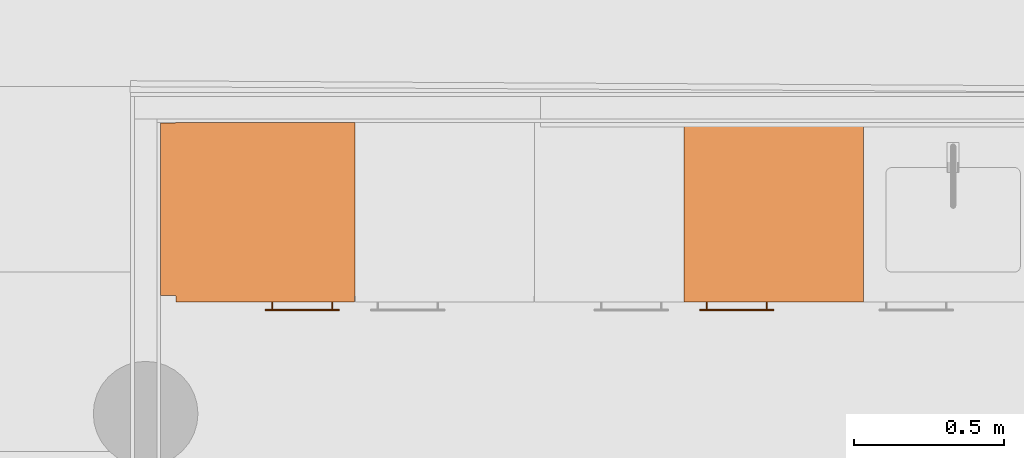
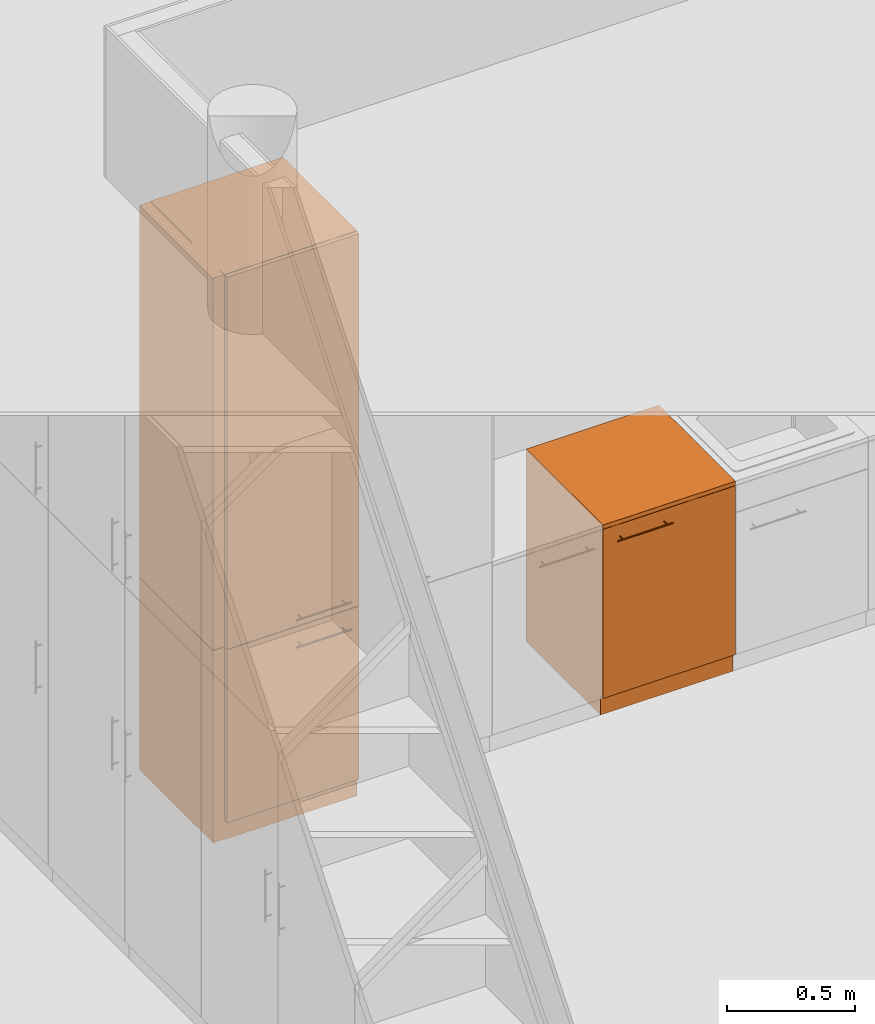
# One storey, part 121 of 167: 2 proxies.
"""IFC2X3 building model written with IfcOpenShell, lengths in millimetres."""

from ifc_helpers import new_model, entity, si_unit, converted_unit, derived_unit, money_unit, direction, frame, origin_with_axes, place, context, subcontext, project, spatial, open_shell, faceted_brep, surface_model, type_object, element, save


model = new_model("IFC2X3")

# Units and contexts
model_context = context("Model", 3, precision=0.01, world=origin_with_axes(), true_north=direction((0.0, 1.0)))
plan_context = context("Plan", 3, precision=0.01, world=origin_with_axes(), true_north=direction((0.0, 1.0)))
body_context = subcontext(model_context, "Body", "Model", "MODEL_VIEW")
ifc_project = project(units=[si_unit("LENGTHUNIT", "METRE", prefix="MILLI"), si_unit("AREAUNIT", "SQUARE_METRE"), si_unit("VOLUMEUNIT", "CUBIC_METRE"), converted_unit("PLANEANGLEUNIT", "DEGREE", entity("IfcPlaneAngleMeasure", 0.0174532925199), si_unit("PLANEANGLEUNIT", "RADIAN"), dimensions=[0, 0, 0, 0, 0, 0, 0]), si_unit("SOLIDANGLEUNIT", "STERADIAN"), money_unit("EUR"), converted_unit("TIMEUNIT", "Year", entity("IfcTimeMeasure", 31556926.0), si_unit("TIMEUNIT", "SECOND"), dimensions=[0, 0, 1, 0, 0, 0, 0]), si_unit("MASSUNIT", "GRAM", prefix="KILO"), si_unit("THERMODYNAMICTEMPERATUREUNIT", "DEGREE_CELSIUS"), si_unit("LUMINOUSINTENSITYUNIT", "LUMEN"), si_unit("ENERGYUNIT", "JOULE", prefix="MEGA"), derived_unit("THERMALCONDUCTANCEUNIT", [(si_unit("POWERUNIT", "WATT"), 1), (si_unit("LENGTHUNIT", "METRE"), -1), (si_unit("THERMODYNAMICTEMPERATUREUNIT", "KELVIN"), -1)]), derived_unit("SPECIFICHEATCAPACITYUNIT", [(si_unit("ENERGYUNIT", "JOULE"), 1), (si_unit("MASSUNIT", "GRAM", prefix="KILO"), -1), (si_unit("THERMODYNAMICTEMPERATUREUNIT", "KELVIN"), -1)]), derived_unit("MASSDENSITYUNIT", [(si_unit("MASSUNIT", "GRAM", prefix="KILO"), 1), (si_unit("VOLUMEUNIT", "CUBIC_METRE"), -1)])], contexts=[model_context, plan_context])

# Site, building, storey
site_placement = place(None, origin_with_axes())
site = spatial("IfcSite", under=ifc_project, at=site_placement, Name="Site", CompositionType="ELEMENT")
building_placement = place(site_placement, origin_with_axes())
building = spatial("IfcBuilding", under=site, at=building_placement, Name="Naam gebouw", CompositionType="ELEMENT")
storey_placement = place(building_placement, origin_with_axes())
storey = spatial("IfcBuildingStorey", under=building, at=storey_placement, Name="Begane grond", CompositionType="ELEMENT", Elevation=0.0)

# Proxies
building_element_proxy_type_1 = type_object("IfcBuildingElementProxyType", Name="Kast basis 1D 24", PredefinedType="NOTDEFINED")
proxy_1_placement = place(storey_placement, frame((16800.0, 7573.34783859, 0.0), z_axis=(0.0, 0.0, 1.0), x_axis=(1.0, 0.0, 0.0)))
element("IfcBuildingElementProxy", 1, at=proxy_1_placement, inside=storey, type_object=building_element_proxy_type_1, Name="__Object-x", context=body_context, shape_type="SurfaceModel", body=[
    faceted_brep([(0.0, 20.0, 0.0), (0.0, 20.0, 90.0), (-600.0, 20.0, 90.0), (-600.0, 20.0, 0.0), (0.0, 600.0, 0.0), (0.0, 600.0, 90.0), (-600.0, 600.0, 90.0), (-600.0, 600.0, 0.0)], [[[0, 1, 2, 3]], [[4, 5, 1, 0]], [[1, 5, 6, 2]], [[3, 2, 6, 7]], [[0, 3, 7, 4]], [[7, 6, 5, 4]]]),
    faceted_brep([(0.0, 20.0, 880.0), (0.0, 20.0, 900.0), (-20.0, 20.0, 900.0), (-20.0, 20.0, 880.0), (0.0, 600.0, 880.0), (0.0, 600.0, 900.0), (-20.0, 600.0, 900.0), (-580.0, 600.0, 900.0), (-600.0, 600.0, 900.0), (-600.0, 20.0, 900.0), (-580.0, 20.0, 900.0), (-580.0, 20.0, 880.0), (-600.0, 20.0, 880.0), (-600.0, 600.0, 880.0), (-580.0, 600.0, 880.0), (-20.0, 600.0, 880.0)], [[[0, 1, 2, 3]], [[4, 5, 1, 0]], [[1, 5, 6, 7, 8, 9, 10, 2]], [[3, 2, 10, 11]], [[0, 3, 11, 12, 13, 14, 15, 4]], [[15, 6, 5, 4]], [[14, 7, 6, 15]], [[13, 8, 7, 14]], [[12, 9, 8, 13]], [[11, 10, 9, 12]]]),
    faceted_brep([(0.0, 20.0, 90.0), (0.0, 20.0, 110.0), (-20.0, 20.0, 110.0), (-20.0, 20.0, 90.0), (0.0, 600.0, 90.0), (0.0, 600.0, 110.0), (-20.0, 600.0, 110.0), (-580.0, 600.0, 110.0), (-600.0, 600.0, 110.0), (-600.0, 20.0, 110.0), (-580.0, 20.0, 110.0), (-580.0, 20.0, 90.0), (-600.0, 20.0, 90.0), (-600.0, 600.0, 90.0), (-580.0, 600.0, 90.0), (-20.0, 600.0, 90.0)], [[[0, 1, 2, 3]], [[4, 5, 1, 0]], [[1, 5, 6, 7, 8, 9, 10, 2]], [[3, 2, 10, 11]], [[0, 3, 11, 12, 13, 14, 15, 4]], [[15, 6, 5, 4]], [[14, 7, 6, 15]], [[13, 8, 7, 14]], [[12, 9, 8, 13]], [[11, 10, 9, 12]]]),
    faceted_brep([(0.0, 20.0, 110.0), (0.0, 20.0, 880.0), (-20.0, 20.0, 880.0), (-20.0, 20.0, 110.0), (0.0, 600.0, 110.0), (0.0, 600.0, 880.0), (-600.0, 600.0, 880.0), (-600.0, 20.0, 880.0), (-580.0, 20.0, 880.0), (-580.0, 580.0, 880.0), (-20.0, 580.0, 880.0), (-20.0, 580.0, 110.0), (-580.0, 580.0, 110.0), (-580.0, 20.0, 110.0), (-600.0, 20.0, 110.0), (-600.0, 600.0, 110.0)], [[[0, 1, 2, 3]], [[4, 5, 1, 0]], [[1, 5, 6, 7, 8, 9, 10, 2]], [[3, 2, 10, 11]], [[0, 3, 11, 12, 13, 14, 15, 4]], [[15, 6, 5, 4]], [[14, 7, 6, 15]], [[13, 8, 7, 14]], [[12, 9, 8, 13]], [[11, 10, 9, 12]]]),
    faceted_brep([(-580.0, 20.0, 475.0), (-580.0, 20.0, 495.0), (-580.0, 580.0, 495.0), (-580.0, 580.0, 475.0), (-20.0, 20.0, 475.0), (-20.0, 20.0, 495.0), (-20.0, 580.0, 495.0), (-20.0, 580.0, 475.0)], [[[0, 1, 2, 3]], [[4, 5, 1, 0]], [[1, 5, 6, 2]], [[3, 2, 6, 7]], [[0, 3, 7, 4]], [[7, 6, 5, 4]]]),
    faceted_brep([(0.0, 0.0, 900.0), (0.0, 0.0, 920.0), (-600.0, 0.0, 920.0), (-600.0, 0.0, 900.0), (0.0, 600.0, 900.0), (0.0, 600.0, 920.0), (-600.0, 600.0, 920.0), (-600.0, 600.0, 900.0)], [[[0, 1, 2, 3]], [[4, 5, 1, 0]], [[1, 5, 6, 2]], [[3, 2, 6, 7]], [[0, 3, 7, 4]], [[7, 6, 5, 4]]]),
    faceted_brep([(-1.5, 20.0, 91.5), (-1.5, 0.0, 91.5), (-598.5, 0.0, 91.5), (-598.5, 20.0, 91.5), (-1.5, 20.0, 898.5), (-1.5, 0.0, 898.5), (-598.5, 0.0, 898.5), (-598.5, 20.0, 898.5)], [[[0, 1, 2, 3]], [[4, 5, 1, 0]], [[1, 5, 6, 2]], [[3, 2, 6, 7]], [[0, 3, 7, 4]], [[7, 6, 5, 4]]]),
    faceted_brep([(-298.5, -28.1480502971, 838.728361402), (-298.5, -27.0, 838.5), (-298.5, -25.8519497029, 838.728361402), (-298.5, -24.8786796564, 839.378679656), (-298.5, -24.2283614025, 840.351949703), (-298.5, -24.0, 841.5), (-298.5, -24.2283614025, 842.648050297), (-298.5, -24.8786796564, 843.621320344), (-298.5, -25.8519497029, 844.271638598), (-298.5, -27.0, 844.5), (-298.5, -28.1480502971, 844.271638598), (-298.5, -29.1213203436, 843.621320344), (-298.5, -29.7716385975, 842.648050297), (-298.5, -30.0, 841.5), (-298.5, -29.7716385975, 840.351949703), (-298.5, -29.1213203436, 839.378679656), (-548.5, -28.1480502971, 838.728361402), (-548.5, -27.0, 838.5), (-548.5, -25.8519497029, 838.728361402), (-548.5, -24.8786796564, 839.378679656), (-548.5, -24.2283614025, 840.351949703), (-548.5, -24.0, 841.5), (-548.5, -24.2283614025, 842.648050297), (-548.5, -24.8786796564, 843.621320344), (-548.5, -25.8519497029, 844.271638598), (-548.5, -27.0, 844.5), (-548.5, -28.1480502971, 844.271638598), (-548.5, -29.1213203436, 843.621320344), (-548.5, -29.7716385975, 842.648050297), (-548.5, -30.0, 841.5), (-548.5, -29.7716385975, 840.351949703), (-548.5, -29.1213203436, 839.378679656)], [[[0, 1, 2, 3, 4, 5, 6, 7, 8, 9, 10, 11, 12, 13, 14, 15]], [[0, 16, 17, 1]], [[1, 17, 18, 2]], [[2, 18, 19, 3]], [[3, 19, 20, 4]], [[4, 20, 21, 5]], [[5, 21, 22, 6]], [[6, 22, 23, 7]], [[7, 23, 24, 8]], [[8, 24, 25, 9]], [[9, 25, 26, 10]], [[10, 26, 27, 11]], [[11, 27, 28, 12]], [[12, 28, 29, 13]], [[13, 29, 30, 14]], [[14, 30, 31, 15]], [[15, 31, 16, 0]], [[16, 31, 30, 29, 28, 27, 26, 25, 24, 23, 22, 21, 20, 19, 18, 17]]]),
    surface_model("IfcShellBasedSurfaceModel", [(-321.190301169, -24.156637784, 840.543291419), (-321.190301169, 0.0, 840.543291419), (-321.0, 0.0, 841.5), (-321.0, -24.0, 841.5), (-321.732233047, -24.5761600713, 839.732233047), (-321.732233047, 0.0, 839.732233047), (-322.543291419, 0.0, 839.190301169), (-323.5, 0.0, 839.0), (-324.456708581, 0.0, 839.190301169), (-325.267766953, 0.0, 839.732233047), (-325.809698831, 0.0, 840.543291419), (-326.0, 0.0, 841.5), (-325.809698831, 0.0, 842.456708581), (-325.267766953, 0.0, 843.267766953), (-324.456708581, 0.0, 843.809698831), (-323.5, 0.0, 844.0), (-322.543291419, 0.0, 843.809698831), (-321.732233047, 0.0, 843.267766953), (-321.190301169, 0.0, 842.456708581), (-321.190301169, -24.156637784, 842.456708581), (-322.543291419, -25.0855049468, 839.190301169), (-323.5, -25.3416876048, 839.0), (-324.456708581, -25.0855049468, 839.190301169), (-325.267766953, -24.5761600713, 839.732233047), (-325.809698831, -24.156637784, 840.543291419), (-326.0, -24.0, 841.5), (-325.809698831, -24.156637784, 842.456708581), (-325.267766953, -24.5761600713, 843.267766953), (-324.456708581, -25.0855049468, 843.809698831), (-323.5, -25.3416876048, 844.0), (-322.543291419, -25.0855049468, 843.809698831), (-321.732233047, -24.5761600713, 843.267766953)], [open_shell([[[0, 1, 2, 3]], [[4, 5, 1, 0]], [[1, 5, 6, 7, 8, 9, 10, 11, 12, 13, 14, 15, 16, 17, 18, 2]], [[3, 2, 18, 19]], [[20, 6, 5, 4]], [[21, 7, 6, 20]], [[22, 8, 7, 21]], [[23, 9, 8, 22]], [[24, 10, 9, 23]], [[25, 11, 10, 24]], [[26, 12, 11, 25]], [[27, 13, 12, 26]], [[28, 14, 13, 27]], [[29, 15, 14, 28]], [[30, 16, 15, 29]], [[31, 17, 16, 30]], [[19, 18, 17, 31]]])]),
    surface_model("IfcShellBasedSurfaceModel", [(-521.190301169, -24.156637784, 840.543291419), (-521.190301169, 0.0, 840.543291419), (-521.0, 0.0, 841.5), (-521.0, -24.0, 841.5), (-521.732233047, -24.5761600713, 839.732233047), (-521.732233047, 0.0, 839.732233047), (-522.543291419, 0.0, 839.190301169), (-523.5, 0.0, 839.0), (-524.456708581, 0.0, 839.190301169), (-525.267766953, 0.0, 839.732233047), (-525.809698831, 0.0, 840.543291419), (-526.0, 0.0, 841.5), (-525.809698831, 0.0, 842.456708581), (-525.267766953, 0.0, 843.267766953), (-524.456708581, 0.0, 843.809698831), (-523.5, 0.0, 844.0), (-522.543291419, 0.0, 843.809698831), (-521.732233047, 0.0, 843.267766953), (-521.190301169, 0.0, 842.456708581), (-521.190301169, -24.156637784, 842.456708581), (-522.543291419, -25.0855049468, 839.190301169), (-523.5, -25.3416876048, 839.0), (-524.456708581, -25.0855049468, 839.190301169), (-525.267766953, -24.5761600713, 839.732233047), (-525.809698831, -24.156637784, 840.543291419), (-526.0, -24.0, 841.5), (-525.809698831, -24.156637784, 842.456708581), (-525.267766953, -24.5761600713, 843.267766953), (-524.456708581, -25.0855049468, 843.809698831), (-523.5, -25.3416876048, 844.0), (-522.543291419, -25.0855049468, 843.809698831), (-521.732233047, -24.5761600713, 843.267766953)], [open_shell([[[0, 1, 2, 3]], [[4, 5, 1, 0]], [[1, 5, 6, 7, 8, 9, 10, 11, 12, 13, 14, 15, 16, 17, 18, 2]], [[3, 2, 18, 19]], [[20, 6, 5, 4]], [[21, 7, 6, 20]], [[22, 8, 7, 21]], [[23, 9, 8, 22]], [[24, 10, 9, 23]], [[25, 11, 10, 24]], [[26, 12, 11, 25]], [[27, 13, 12, 26]], [[28, 14, 13, 27]], [[29, 15, 14, 28]], [[30, 16, 15, 29]], [[31, 17, 16, 30]], [[19, 18, 17, 31]]])]),
])
building_element_proxy_type_2 = type_object("IfcBuildingElementProxyType", Name="Kast hoog 1D 24", PredefinedType="NOTDEFINED")
proxy_2_placement = place(storey_placement, frame((14450.0, 7573.34783859, 0.0), z_axis=(0.0, 0.0, 1.0), x_axis=(1.0, 0.0, 0.0)))
element("IfcBuildingElementProxy", 2, at=proxy_2_placement, inside=storey, type_object=building_element_proxy_type_2, Name="__Object-x", context=body_context, shape_type="SurfaceModel", body=[
    faceted_brep([(70.0, 20.0, 910.0), (630.0, 20.0, 910.0), (630.0, 20.0, 930.0), (70.0, 20.0, 930.0), (70.0, 580.0, 910.0), (630.0, 580.0, 910.0), (630.0, 580.0, 930.0), (70.0, 580.0, 930.0)], [[[0, 1, 2, 3]], [[0, 4, 5, 1]], [[1, 5, 6, 2]], [[3, 2, 6, 7]], [[4, 0, 3, 7]], [[5, 4, 7, 6]]]),
    faceted_brep([(50.0, 20.0, 0.0), (650.0, 20.0, 0.0), (650.0, 20.0, 90.0), (50.0, 20.0, 90.0), (50.0, 600.0, 0.0), (650.0, 600.0, 0.0), (650.0, 600.0, 90.0), (50.0, 600.0, 90.0)], [[[0, 1, 2, 3]], [[0, 4, 5, 1]], [[1, 5, 6, 2]], [[3, 2, 6, 7]], [[4, 0, 3, 7]], [[5, 4, 7, 6]]]),
    faceted_brep([(50.0, 20.0, 2680.0), (70.0, 20.0, 2680.0), (70.0, 20.0, 2700.0), (50.0, 20.0, 2700.0), (50.0, 600.0, 2680.0), (70.0, 600.0, 2680.0), (630.0, 600.0, 2680.0), (650.0, 600.0, 2680.0), (650.0, 20.0, 2680.0), (630.0, 20.0, 2680.0), (630.0, 20.0, 2700.0), (650.0, 20.0, 2700.0), (650.0, 600.0, 2700.0), (630.0, 600.0, 2700.0), (70.0, 600.0, 2700.0), (50.0, 600.0, 2700.0)], [[[0, 1, 2, 3]], [[0, 4, 5, 6, 7, 8, 9, 1]], [[1, 9, 10, 2]], [[3, 2, 10, 11, 12, 13, 14, 15]], [[4, 0, 3, 15]], [[5, 4, 15, 14]], [[6, 5, 14, 13]], [[7, 6, 13, 12]], [[8, 7, 12, 11]], [[9, 8, 11, 10]]]),
    faceted_brep([(50.0, 20.0, 90.0), (70.0, 20.0, 90.0), (70.0, 20.0, 110.0), (50.0, 20.0, 110.0), (50.0, 600.0, 90.0), (70.0, 600.0, 90.0), (630.0, 600.0, 90.0), (650.0, 600.0, 90.0), (650.0, 20.0, 90.0), (630.0, 20.0, 90.0), (630.0, 20.0, 110.0), (650.0, 20.0, 110.0), (650.0, 600.0, 110.0), (630.0, 600.0, 110.0), (70.0, 600.0, 110.0), (50.0, 600.0, 110.0)], [[[0, 1, 2, 3]], [[0, 4, 5, 6, 7, 8, 9, 1]], [[1, 9, 10, 2]], [[3, 2, 10, 11, 12, 13, 14, 15]], [[4, 0, 3, 15]], [[5, 4, 15, 14]], [[6, 5, 14, 13]], [[7, 6, 13, 12]], [[8, 7, 12, 11]], [[9, 8, 11, 10]]]),
    faceted_brep([(50.0, 20.0, 110.0), (70.0, 20.0, 110.0), (70.0, 20.0, 2680.0), (50.0, 20.0, 2680.0), (50.0, 600.0, 110.0), (650.0, 600.0, 110.0), (650.0, 20.0, 110.0), (630.0, 20.0, 110.0), (630.0, 580.0, 110.0), (70.0, 580.0, 110.0), (70.0, 580.0, 2680.0), (630.0, 580.0, 2680.0), (630.0, 20.0, 2680.0), (650.0, 20.0, 2680.0), (650.0, 600.0, 2680.0), (50.0, 600.0, 2680.0)], [[[0, 1, 2, 3]], [[0, 4, 5, 6, 7, 8, 9, 1]], [[1, 9, 10, 2]], [[3, 2, 10, 11, 12, 13, 14, 15]], [[4, 0, 3, 15]], [[5, 4, 15, 14]], [[6, 5, 14, 13]], [[7, 6, 13, 12]], [[8, 7, 12, 11]], [[9, 8, 11, 10]]]),
    faceted_brep([(630.0, 20.0, 353.333333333), (630.0, 580.0, 353.333333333), (630.0, 580.0, 373.333333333), (630.0, 20.0, 373.333333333), (70.0, 20.0, 353.333333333), (70.0, 580.0, 353.333333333), (70.0, 580.0, 373.333333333), (70.0, 20.0, 373.333333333)], [[[0, 1, 2, 3]], [[0, 4, 5, 1]], [[1, 5, 6, 2]], [[3, 2, 6, 7]], [[4, 0, 3, 7]], [[5, 4, 7, 6]]]),
    faceted_brep([(630.0, 20.0, 636.666666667), (630.0, 580.0, 636.666666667), (630.0, 580.0, 656.666666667), (630.0, 20.0, 656.666666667), (70.0, 20.0, 636.666666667), (70.0, 580.0, 636.666666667), (70.0, 580.0, 656.666666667), (70.0, 20.0, 656.666666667)], [[[0, 1, 2, 3]], [[0, 4, 5, 1]], [[1, 5, 6, 2]], [[3, 2, 6, 7]], [[4, 0, 3, 7]], [[5, 4, 7, 6]]]),
    faceted_brep([(51.5, 20.0, 91.5), (648.5, 20.0, 91.5), (648.5, 0.0, 91.5), (51.5, 0.0, 91.5), (51.5, 20.0, 918.5), (648.5, 20.0, 918.5), (648.5, 0.0, 918.5), (51.5, 0.0, 918.5)], [[[0, 1, 2, 3]], [[0, 4, 5, 1]], [[1, 5, 6, 2]], [[3, 2, 6, 7]], [[4, 0, 3, 7]], [[5, 4, 7, 6]]]),
    faceted_brep([(348.5, -28.1480502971, 838.728361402), (348.5, -29.1213203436, 839.378679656), (348.5, -29.7716385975, 840.351949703), (348.5, -30.0, 841.5), (348.5, -29.7716385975, 842.648050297), (348.5, -29.1213203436, 843.621320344), (348.5, -28.1480502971, 844.271638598), (348.5, -27.0, 844.5), (348.5, -25.8519497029, 844.271638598), (348.5, -24.8786796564, 843.621320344), (348.5, -24.2283614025, 842.648050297), (348.5, -24.0, 841.5), (348.5, -24.2283614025, 840.351949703), (348.5, -24.8786796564, 839.378679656), (348.5, -25.8519497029, 838.728361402), (348.5, -27.0, 838.5), (598.5, -28.1480502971, 838.728361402), (598.5, -29.1213203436, 839.378679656), (598.5, -29.7716385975, 840.351949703), (598.5, -30.0, 841.5), (598.5, -29.7716385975, 842.648050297), (598.5, -29.1213203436, 843.621320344), (598.5, -28.1480502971, 844.271638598), (598.5, -27.0, 844.5), (598.5, -25.8519497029, 844.271638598), (598.5, -24.8786796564, 843.621320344), (598.5, -24.2283614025, 842.648050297), (598.5, -24.0, 841.5), (598.5, -24.2283614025, 840.351949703), (598.5, -24.8786796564, 839.378679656), (598.5, -25.8519497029, 838.728361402), (598.5, -27.0, 838.5)], [[[0, 1, 2, 3, 4, 5, 6, 7, 8, 9, 10, 11, 12, 13, 14, 15]], [[1, 0, 16, 17]], [[2, 1, 17, 18]], [[3, 2, 18, 19]], [[4, 3, 19, 20]], [[5, 4, 20, 21]], [[6, 5, 21, 22]], [[7, 6, 22, 23]], [[8, 7, 23, 24]], [[9, 8, 24, 25]], [[10, 9, 25, 26]], [[11, 10, 26, 27]], [[12, 11, 27, 28]], [[13, 12, 28, 29]], [[14, 13, 29, 30]], [[15, 14, 30, 31]], [[0, 15, 31, 16]], [[16, 31, 30, 29, 28, 27, 26, 25, 24, 23, 22, 21, 20, 19, 18, 17]]]),
    surface_model("IfcShellBasedSurfaceModel", [(371.190301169, -24.156637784, 840.543291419), (371.0, -24.0, 841.5), (371.0, 0.0, 841.5), (371.190301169, 0.0, 840.543291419), (371.190301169, -24.156637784, 842.456708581), (371.190301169, 0.0, 842.456708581), (371.732233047, 0.0, 843.267766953), (372.543291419, 0.0, 843.809698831), (373.5, 0.0, 844.0), (374.456708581, 0.0, 843.809698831), (375.267766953, 0.0, 843.267766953), (375.809698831, 0.0, 842.456708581), (376.0, 0.0, 841.5), (375.809698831, 0.0, 840.543291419), (375.267766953, 0.0, 839.732233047), (374.456708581, 0.0, 839.190301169), (373.5, 0.0, 839.0), (372.543291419, 0.0, 839.190301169), (371.732233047, 0.0, 839.732233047), (371.732233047, -24.5761600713, 839.732233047), (371.732233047, -24.5761600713, 843.267766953), (372.543291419, -25.0855049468, 843.809698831), (373.5, -25.3416876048, 844.0), (374.456708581, -25.0855049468, 843.809698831), (375.267766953, -24.5761600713, 843.267766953), (375.809698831, -24.156637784, 842.456708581), (376.0, -24.0, 841.5), (375.809698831, -24.156637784, 840.543291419), (375.267766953, -24.5761600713, 839.732233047), (374.456708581, -25.0855049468, 839.190301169), (373.5, -25.3416876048, 839.0), (372.543291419, -25.0855049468, 839.190301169)], [open_shell([[[0, 1, 2, 3]], [[1, 4, 5, 2]], [[3, 2, 5, 6, 7, 8, 9, 10, 11, 12, 13, 14, 15, 16, 17, 18]], [[19, 0, 3, 18]], [[4, 20, 6, 5]], [[20, 21, 7, 6]], [[21, 22, 8, 7]], [[22, 23, 9, 8]], [[23, 24, 10, 9]], [[24, 25, 11, 10]], [[25, 26, 12, 11]], [[26, 27, 13, 12]], [[27, 28, 14, 13]], [[28, 29, 15, 14]], [[29, 30, 16, 15]], [[30, 31, 17, 16]], [[31, 19, 18, 17]]])]),
    surface_model("IfcShellBasedSurfaceModel", [(571.190301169, -24.156637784, 840.543291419), (571.0, -24.0, 841.5), (571.0, 0.0, 841.5), (571.190301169, 0.0, 840.543291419), (571.190301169, -24.156637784, 842.456708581), (571.190301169, 0.0, 842.456708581), (571.732233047, 0.0, 843.267766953), (572.543291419, 0.0, 843.809698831), (573.5, 0.0, 844.0), (574.456708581, 0.0, 843.809698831), (575.267766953, 0.0, 843.267766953), (575.809698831, 0.0, 842.456708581), (576.0, 0.0, 841.5), (575.809698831, 0.0, 840.543291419), (575.267766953, 0.0, 839.732233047), (574.456708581, 0.0, 839.190301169), (573.5, 0.0, 839.0), (572.543291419, 0.0, 839.190301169), (571.732233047, 0.0, 839.732233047), (571.732233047, -24.5761600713, 839.732233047), (571.732233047, -24.5761600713, 843.267766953), (572.543291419, -25.0855049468, 843.809698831), (573.5, -25.3416876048, 844.0), (574.456708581, -25.0855049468, 843.809698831), (575.267766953, -24.5761600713, 843.267766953), (575.809698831, -24.156637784, 842.456708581), (576.0, -24.0, 841.5), (575.809698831, -24.156637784, 840.543291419), (575.267766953, -24.5761600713, 839.732233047), (574.456708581, -25.0855049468, 839.190301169), (573.5, -25.3416876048, 839.0), (572.543291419, -25.0855049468, 839.190301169)], [open_shell([[[0, 1, 2, 3]], [[1, 4, 5, 2]], [[3, 2, 5, 6, 7, 8, 9, 10, 11, 12, 13, 14, 15, 16, 17, 18]], [[19, 0, 3, 18]], [[4, 20, 6, 5]], [[20, 21, 7, 6]], [[21, 22, 8, 7]], [[22, 23, 9, 8]], [[23, 24, 10, 9]], [[24, 25, 11, 10]], [[25, 26, 12, 11]], [[26, 27, 13, 12]], [[27, 28, 14, 13]], [[28, 29, 15, 14]], [[29, 30, 16, 15]], [[30, 31, 17, 16]], [[31, 19, 18, 17]]])]),
    faceted_brep([(51.5, 20.0, 921.5), (648.5, 20.0, 921.5), (648.5, 0.0, 921.5), (51.5, 0.0, 921.5), (51.5, 20.0, 2698.5), (648.5, 20.0, 2698.5), (648.5, 0.0, 2698.5), (51.5, 0.0, 2698.5)], [[[0, 1, 2, 3]], [[0, 4, 5, 1]], [[1, 5, 6, 2]], [[3, 2, 6, 7]], [[4, 0, 3, 7]], [[5, 4, 7, 6]]]),
    faceted_brep([(348.5, -28.1480502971, 968.728361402), (348.5, -29.1213203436, 969.378679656), (348.5, -29.7716385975, 970.351949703), (348.5, -30.0, 971.5), (348.5, -29.7716385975, 972.648050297), (348.5, -29.1213203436, 973.621320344), (348.5, -28.1480502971, 974.271638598), (348.5, -27.0, 974.5), (348.5, -25.8519497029, 974.271638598), (348.5, -24.8786796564, 973.621320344), (348.5, -24.2283614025, 972.648050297), (348.5, -24.0, 971.5), (348.5, -24.2283614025, 970.351949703), (348.5, -24.8786796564, 969.378679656), (348.5, -25.8519497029, 968.728361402), (348.5, -27.0, 968.5), (598.5, -28.1480502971, 968.728361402), (598.5, -29.1213203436, 969.378679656), (598.5, -29.7716385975, 970.351949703), (598.5, -30.0, 971.5), (598.5, -29.7716385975, 972.648050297), (598.5, -29.1213203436, 973.621320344), (598.5, -28.1480502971, 974.271638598), (598.5, -27.0, 974.5), (598.5, -25.8519497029, 974.271638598), (598.5, -24.8786796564, 973.621320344), (598.5, -24.2283614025, 972.648050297), (598.5, -24.0, 971.5), (598.5, -24.2283614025, 970.351949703), (598.5, -24.8786796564, 969.378679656), (598.5, -25.8519497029, 968.728361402), (598.5, -27.0, 968.5)], [[[0, 1, 2, 3, 4, 5, 6, 7, 8, 9, 10, 11, 12, 13, 14, 15]], [[1, 0, 16, 17]], [[2, 1, 17, 18]], [[3, 2, 18, 19]], [[4, 3, 19, 20]], [[5, 4, 20, 21]], [[6, 5, 21, 22]], [[7, 6, 22, 23]], [[8, 7, 23, 24]], [[9, 8, 24, 25]], [[10, 9, 25, 26]], [[11, 10, 26, 27]], [[12, 11, 27, 28]], [[13, 12, 28, 29]], [[14, 13, 29, 30]], [[15, 14, 30, 31]], [[0, 15, 31, 16]], [[16, 31, 30, 29, 28, 27, 26, 25, 24, 23, 22, 21, 20, 19, 18, 17]]]),
    surface_model("IfcShellBasedSurfaceModel", [(371.190301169, -24.156637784, 970.543291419), (371.0, -24.0, 971.5), (371.0, 0.0, 971.5), (371.190301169, 0.0, 970.543291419), (371.190301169, -24.156637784, 972.456708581), (371.190301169, 0.0, 972.456708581), (371.732233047, 0.0, 973.267766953), (372.543291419, 0.0, 973.809698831), (373.5, 0.0, 974.0), (374.456708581, 0.0, 973.809698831), (375.267766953, 0.0, 973.267766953), (375.809698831, 0.0, 972.456708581), (376.0, 0.0, 971.5), (375.809698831, 0.0, 970.543291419), (375.267766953, 0.0, 969.732233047), (374.456708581, 0.0, 969.190301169), (373.5, 0.0, 969.0), (372.543291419, 0.0, 969.190301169), (371.732233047, 0.0, 969.732233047), (371.732233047, -24.5761600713, 969.732233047), (371.732233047, -24.5761600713, 973.267766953), (372.543291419, -25.0855049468, 973.809698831), (373.5, -25.3416876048, 974.0), (374.456708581, -25.0855049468, 973.809698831), (375.267766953, -24.5761600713, 973.267766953), (375.809698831, -24.156637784, 972.456708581), (376.0, -24.0, 971.5), (375.809698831, -24.156637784, 970.543291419), (375.267766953, -24.5761600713, 969.732233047), (374.456708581, -25.0855049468, 969.190301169), (373.5, -25.3416876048, 969.0), (372.543291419, -25.0855049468, 969.190301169)], [open_shell([[[0, 1, 2, 3]], [[1, 4, 5, 2]], [[3, 2, 5, 6, 7, 8, 9, 10, 11, 12, 13, 14, 15, 16, 17, 18]], [[19, 0, 3, 18]], [[4, 20, 6, 5]], [[20, 21, 7, 6]], [[21, 22, 8, 7]], [[22, 23, 9, 8]], [[23, 24, 10, 9]], [[24, 25, 11, 10]], [[25, 26, 12, 11]], [[26, 27, 13, 12]], [[27, 28, 14, 13]], [[28, 29, 15, 14]], [[29, 30, 16, 15]], [[30, 31, 17, 16]], [[31, 19, 18, 17]]])]),
    surface_model("IfcShellBasedSurfaceModel", [(571.190301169, -24.156637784, 970.543291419), (571.0, -24.0, 971.5), (571.0, 0.0, 971.5), (571.190301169, 0.0, 970.543291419), (571.190301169, -24.156637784, 972.456708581), (571.190301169, 0.0, 972.456708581), (571.732233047, 0.0, 973.267766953), (572.543291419, 0.0, 973.809698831), (573.5, 0.0, 974.0), (574.456708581, 0.0, 973.809698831), (575.267766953, 0.0, 973.267766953), (575.809698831, 0.0, 972.456708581), (576.0, 0.0, 971.5), (575.809698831, 0.0, 970.543291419), (575.267766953, 0.0, 969.732233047), (574.456708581, 0.0, 969.190301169), (573.5, 0.0, 969.0), (572.543291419, 0.0, 969.190301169), (571.732233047, 0.0, 969.732233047), (571.732233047, -24.5761600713, 969.732233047), (571.732233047, -24.5761600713, 973.267766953), (572.543291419, -25.0855049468, 973.809698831), (573.5, -25.3416876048, 974.0), (574.456708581, -25.0855049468, 973.809698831), (575.267766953, -24.5761600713, 973.267766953), (575.809698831, -24.156637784, 972.456708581), (576.0, -24.0, 971.5), (575.809698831, -24.156637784, 970.543291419), (575.267766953, -24.5761600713, 969.732233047), (574.456708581, -25.0855049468, 969.190301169), (573.5, -25.3416876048, 969.0), (572.543291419, -25.0855049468, 969.190301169)], [open_shell([[[0, 1, 2, 3]], [[1, 4, 5, 2]], [[3, 2, 5, 6, 7, 8, 9, 10, 11, 12, 13, 14, 15, 16, 17, 18]], [[19, 0, 3, 18]], [[4, 20, 6, 5]], [[20, 21, 7, 6]], [[21, 22, 8, 7]], [[22, 23, 9, 8]], [[23, 24, 10, 9]], [[24, 25, 11, 10]], [[25, 26, 12, 11]], [[26, 27, 13, 12]], [[27, 28, 14, 13]], [[28, 29, 15, 14]], [[29, 30, 16, 15]], [[30, 31, 17, 16]], [[31, 19, 18, 17]]])]),
    faceted_brep([(50.0, 598.5, 1.5), (50.0, 21.5, 1.5), (0.0, 21.5, 1.5), (0.0, 598.5, 1.5), (50.0, 598.5, 918.5), (50.0, 21.5, 918.5), (0.0, 21.5, 918.5), (0.0, 598.5, 918.5)], [[[0, 1, 2, 3]], [[0, 4, 5, 1]], [[1, 5, 6, 2]], [[3, 2, 6, 7]], [[4, 0, 3, 7]], [[5, 4, 7, 6]]]),
    faceted_brep([(50.0, 598.5, 921.5), (50.0, 21.5, 921.5), (0.0, 21.5, 921.5), (0.0, 598.5, 921.5), (50.0, 598.5, 2698.5), (50.0, 21.5, 2698.5), (0.0, 21.5, 2698.5), (0.0, 598.5, 2698.5)], [[[0, 1, 2, 3]], [[0, 4, 5, 1]], [[1, 5, 6, 2]], [[3, 2, 6, 7]], [[4, 0, 3, 7]], [[5, 4, 7, 6]]]),
])

save(model, "model.ifc")
